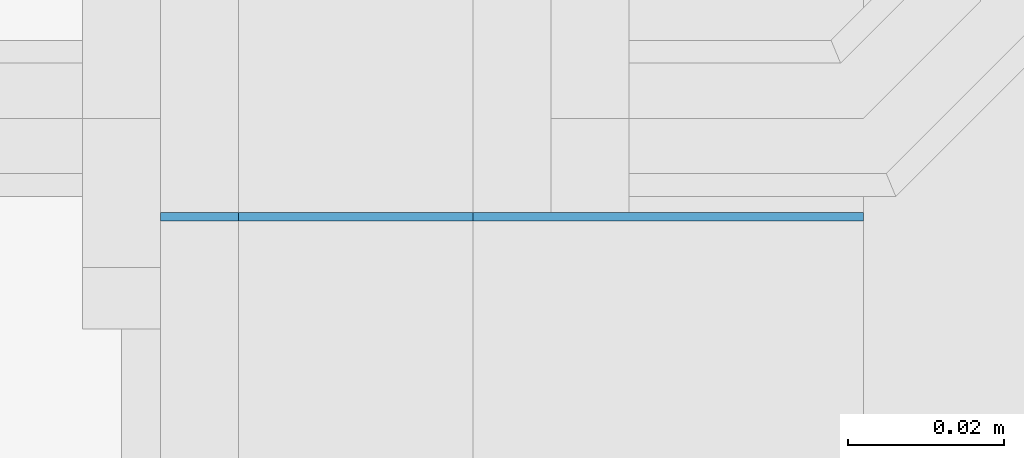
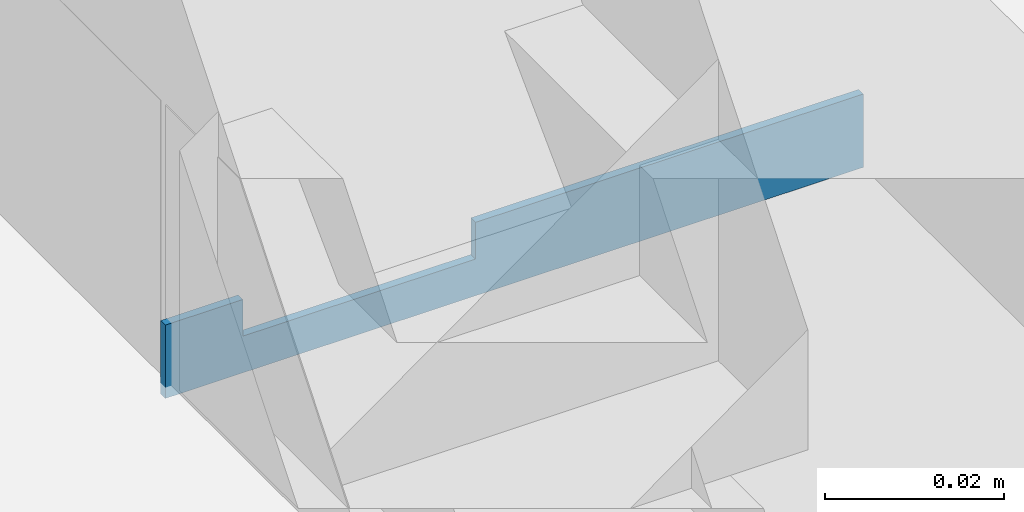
# One storey, part 37 of 153: 1 member, 1 element without a shape of its own.
"""IFC2X3 building model written with IfcOpenShell, lengths in millimetres."""

from ifc_helpers import new_model, entity, si_unit, converted_unit, derived_unit, money_unit, direction, frame, origin_with_axes, place, context, subcontext, project, spatial, faceted_brep, material, type_object, element, aggregate, save


model = new_model("IFC2X3")

# Units and contexts
model_context = context("Model", 3, precision=0.01, world=origin_with_axes(), true_north=direction((0.0, 1.0)))
body_context = subcontext(model_context, "Body", "Model", "MODEL_VIEW")
ifc_project = project(units=[si_unit("LENGTHUNIT", "METRE", prefix="MILLI"), si_unit("AREAUNIT", "SQUARE_METRE"), si_unit("VOLUMEUNIT", "CUBIC_METRE"), converted_unit("PLANEANGLEUNIT", "DEGREE", entity("IfcPlaneAngleMeasure", 0.0174532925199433), si_unit("PLANEANGLEUNIT", "RADIAN"), dimensions=[0, 0, 0, 0, 0, 0, 0]), money_unit("EUR"), converted_unit("TIMEUNIT", "Year", entity("IfcTimeMeasure", 31557600.0), si_unit("TIMEUNIT", "SECOND"), dimensions=[0, 0, 1, 0, 0, 0, 0]), si_unit("MASSUNIT", "GRAM", prefix="KILO"), si_unit("THERMODYNAMICTEMPERATUREUNIT", "DEGREE_CELSIUS"), si_unit("LUMINOUSINTENSITYUNIT", "LUMEN"), si_unit("ENERGYUNIT", "JOULE", prefix="MEGA"), derived_unit("THERMALCONDUCTANCEUNIT", [(si_unit("POWERUNIT", "WATT"), 1), (si_unit("LENGTHUNIT", "METRE"), -1), (si_unit("THERMODYNAMICTEMPERATUREUNIT", "KELVIN"), -1)]), derived_unit("SPECIFICHEATCAPACITYUNIT", [(si_unit("ENERGYUNIT", "JOULE"), 1), (si_unit("MASSUNIT", "GRAM", prefix="KILO"), -1), (si_unit("THERMODYNAMICTEMPERATUREUNIT", "KELVIN"), -1)]), derived_unit("MASSDENSITYUNIT", [(si_unit("MASSUNIT", "GRAM", prefix="KILO"), 1), (si_unit("VOLUMEUNIT", "CUBIC_METRE"), -1)])], contexts=[model_context])

# Site, building, storey
site_placement = place(None, frame((0.0, 0.0, 8650.0), z_axis=(0.0, 0.0, 1.0), x_axis=(1.0, 0.0, 0.0)))
site = spatial("IfcSite", under=ifc_project, at=site_placement, Name="43301:001:0844", CompositionType="ELEMENT")
building_placement = place(site_placement, origin_with_axes())
building = spatial("IfcBuilding", under=site, at=building_placement, Name="Kuressaare Ametikooli tuulikute mehaanikute õppekorpus", CompositionType="ELEMENT")
storey_placement = place(building_placement, frame((0.0, 0.0, 4100.0), z_axis=(0.0, 0.0, 1.0), x_axis=(1.0, 0.0, 0.0)))
storey = spatial("IfcBuildingStorey", under=building, at=storey_placement, Name="2.korrus", CompositionType="ELEMENT", Elevation=4100.0)

# Curtain wall, member
curtain_wall_type = type_object("IfcCurtainWallType", Name="Curtain Wall Type", PredefinedType="NOTDEFINED")
curtain_wall_placement = place(storey_placement, frame((128142.9907946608, 12695.39546179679, 0.0), z_axis=(0.0, 0.0, 1.0), x_axis=(1.0, 0.0, 0.0)))
curtain_wall = element("IfcCurtainWall", 1, at=curtain_wall_placement, inside=storey, type_object=curtain_wall_type, Name="PKF-4")
ifc_material = material(Name="Aluminium")
member_type = type_object("IfcMemberType", Name="10 x 90", PredefinedType="NOTDEFINED")
member_placement = place(curtain_wall_placement, frame((0.0, -1197.450014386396, 0.0), z_axis=(0.0, 1.0, 0.0), x_axis=(0.0, 0.0, 1.0)))
member = element("IfcMember", 2, at=member_placement, type_object=member_type, material=ifc_material, context=body_context, shape_type="Brep", body=[
    faceted_brep([(4.999999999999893, 14.99999999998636, 1.052306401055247), (9.999999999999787, 14.99999999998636, 1.052306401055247), (9.999999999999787, 64.99999999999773, 1.052306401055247), (0.0, 64.99999999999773, 1.052306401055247), (0.0, 0.0, 1.052306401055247), (0.0, -25.00000000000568, 1.052306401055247), (9.999999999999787, -25.00000000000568, 1.052306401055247), (9.999999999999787, -14.99999999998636, 1.052306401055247), (4.999999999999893, -14.99999999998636, 1.052306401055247), (4.999999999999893, 14.99999999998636, 0.0), (9.999999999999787, 14.99999999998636, 0.0), (9.999999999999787, 64.99999999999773, 0.0), (0.0, 64.99999999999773, 0.0), (0.0, 0.0, 0.0), (0.0, -25.00000000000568, 0.0), (9.999999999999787, -25.00000000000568, 0.0), (9.999999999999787, -14.99999999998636, 0.0), (4.999999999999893, -14.99999999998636, 0.0)], [[[0, 1, 2, 3, 4, 5, 6, 7, 8]], [[0, 9, 10, 1]], [[10, 11, 2, 1]], [[11, 12, 3, 2]], [[12, 13, 4, 3]], [[13, 14, 5, 4]], [[14, 15, 6, 5]], [[7, 6, 15, 16]], [[16, 17, 8, 7]], [[8, 17, 9, 0]], [[9, 17, 16, 15, 14, 13, 12, 11, 10]]]),
])
aggregate(curtain_wall, [member])

save(model, "model.ifc")
